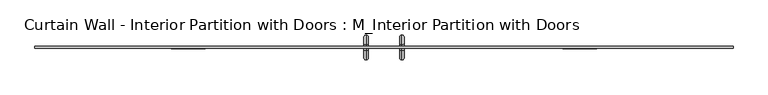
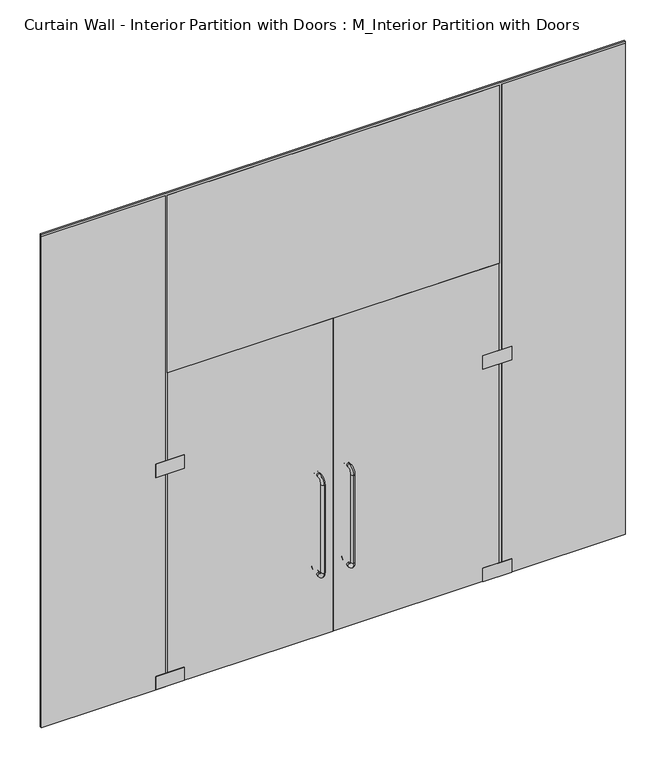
"""IFC4 building model written with IfcOpenShell, lengths in millimetres: plate geometry, Curtain Wall - Interior Partition with Doors : M_Interior Partition with Doors."""

import ifcopenshell
import ifcopenshell.guid

model = None  # the IFC model being written
_history = None  # IfcOwnerHistory: only IFC2X3 demands one
_inside = {}  # id of a spatial element -> (the spatial element, [elements in it])
_under = {}  # id of a project, library or spatial element -> (it, [spatial elements below it])
_declared = {}  # id of a project -> (the project, [libraries it declares])
_typed = {}  # id of a type object -> (the type object, [elements of that type])
_made_of = {}  # id of a material, layer set ... -> (it, [elements and type objects made of it])


def new_model(schema):
    """Start an empty IFC model of exactly this schema.

    Asked for "IFC4X3", IfcOpenShell would pick the latest addendum, in which some entities
    have other attributes; the version numbers below select the first issue.
    IFC2X3 requires an IfcOwnerHistory on every rooted entity: one is made here for all.
    """
    global model, _history
    if schema == "IFC4X3":
        model = ifcopenshell.file(schema_version=(4, 3, 0, 0))
    else:
        model = ifcopenshell.file(schema=schema)
    _inside.clear()
    _under.clear()
    _declared.clear()
    _typed.clear()
    _made_of.clear()
    _history = None
    if model.schema == "IFC2X3":
        org = make("IfcOrganization", Name="unknown")
        user = make(
            "IfcPersonAndOrganization",
            ThePerson=make("IfcPerson", FamilyName="unknown"),
            TheOrganization=org,
        )
        app = make(
            "IfcApplication",
            ApplicationDeveloper=org,
            Version="unknown",
            ApplicationFullName="unknown",
            ApplicationIdentifier="unknown",
        )
        _history = make(
            "IfcOwnerHistory",
            OwningUser=user,
            OwningApplication=app,
            ChangeAction="ADDED",
            CreationDate=0,
        )
    return model


def make(cls, **values):
    """One entity of the class cls with the attributes given. An attribute that is None is left unset."""
    return model.create_entity(
        cls, **{name: value for name, value in values.items() if value is not None}
    )


def rooted(cls, **values):
    """An entity with a GlobalId (a new one), such as an element, a storey or a relation."""
    return make(cls, GlobalId=ifcopenshell.guid.new(), OwnerHistory=_history, **values)


def si_unit(unit_type, name, prefix=None):
    """IfcSIUnit, for example si_unit("LENGTHUNIT", "METRE", prefix="MILLI")."""
    return make("IfcSIUnit", UnitType=unit_type, Prefix=prefix, Name=name)


def assignment(units):
    """IfcUnitAssignment: the units of a project."""
    return None if units is None else make("IfcUnitAssignment", Units=units)


def point(xyz):
    """IfcCartesianPoint."""
    return None if xyz is None else make("IfcCartesianPoint", Coordinates=xyz)


def direction(xyz):
    """IfcDirection."""
    return None if xyz is None else make("IfcDirection", DirectionRatios=xyz)


def frame(location, z_axis=None, x_axis=None):
    """IfcAxis2Placement3D, a coordinate frame: its origin and axes. An axis left out is left unset."""
    return make(
        "IfcAxis2Placement3D",
        Location=point(location),
        Axis=direction(z_axis),
        RefDirection=direction(x_axis),
    )


def origin():
    """The frame at (0, 0, 0) with its axes left unset."""
    return frame((0.0, 0.0, 0.0))


def origin_with_axes():
    """The frame at (0, 0, 0) with the z axis (0, 0, 1) and the x axis (1, 0, 0) written out."""
    return frame((0.0, 0.0, 0.0), z_axis=(0.0, 0.0, 1.0), x_axis=(1.0, 0.0, 0.0))


def place(relative_to, where):
    """IfcLocalPlacement: puts the frame where relative to a parent placement (None: the world)."""
    return make(
        "IfcLocalPlacement", PlacementRelTo=relative_to, RelativePlacement=where
    )


def context(
    kind, dimensions, precision=None, world=None, true_north=None, identifier=None
):
    """IfcGeometricRepresentationContext, for example the 3D "Model" context."""
    return make(
        "IfcGeometricRepresentationContext",
        ContextIdentifier=identifier,
        ContextType=kind,
        CoordinateSpaceDimension=dimensions,
        Precision=precision,
        WorldCoordinateSystem=world,
        TrueNorth=true_north,
    )


def project(units=None, contexts=None):
    """IfcProject with its units and contexts."""
    return rooted(
        "IfcProject",
        Name="project",
        RepresentationContexts=contexts,
        UnitsInContext=assignment(units),
    )


def spatial(cls, under=None, at=None, **own):
    """A site, building, storey or space (cls), placed at a placement, below another one or the project."""
    s = rooted(cls, ObjectPlacement=at, **own)
    if under is not None:
        _under.setdefault(under.id(), (under, []))[1].append(s)
    return s


def polyline(points):
    """IfcPolyline through the points."""
    return make("IfcPolyline", Points=[point(p) for p in points])


def circle_curve(where, radius):
    """IfcCircle in the frame where."""
    return make("IfcCircle", Position=where, Radius=radius)


def ellipse_curve(where, semi_axis1, semi_axis2):
    """IfcEllipse in the frame where."""
    return make(
        "IfcEllipse", Position=where, SemiAxis1=semi_axis1, SemiAxis2=semi_axis2
    )


def trimmed(basis, trim1, trim2, sense, master):
    """IfcTrimmedCurve: the piece of a basis curve between two trims."""
    return make(
        "IfcTrimmedCurve",
        BasisCurve=basis,
        Trim1=trim1,
        Trim2=trim2,
        SenseAgreement=sense,
        MasterRepresentation=master,
    )


def outline(outer, holes=None, kind="AREA"):
    """IfcArbitraryClosedProfileDef: a profile drawn as a closed curve; with holes, ...WithVoids."""
    if holes is None:
        return make("IfcArbitraryClosedProfileDef", ProfileType=kind, OuterCurve=outer)
    return make(
        "IfcArbitraryProfileDefWithVoids",
        ProfileType=kind,
        OuterCurve=outer,
        InnerCurves=holes,
    )


def extrude(swept, where, along, depth):
    """IfcExtrudedAreaSolid: the profile swept, set in the frame where, extruded along a direction by depth."""
    return make(
        "IfcExtrudedAreaSolid",
        SweptArea=swept,
        Position=where,
        ExtrudedDirection=direction(along),
        Depth=depth,
    )


def shape(context_of_items, identifier, shape_type, items):
    """IfcShapeRepresentation: the items that make up one representation, for example the "Body"."""
    return make(
        "IfcShapeRepresentation",
        ContextOfItems=context_of_items,
        RepresentationIdentifier=identifier,
        RepresentationType=shape_type,
        Items=items,
    )


def source(mapping_origin, context_of_items, identifier, shape_type, items):
    """IfcRepresentationMap: a shape defined once, which mapped items show again and again."""
    return make(
        "IfcRepresentationMap",
        MappingOrigin=mapping_origin,
        MappedRepresentation=shape(context_of_items, identifier, shape_type, items),
    )


def transform(
    local_origin,
    x_axis=None,
    y_axis=None,
    z_axis=None,
    scale=None,
    scale2=None,
    scale3=None,
    uniform=True,
):
    """IfcCartesianTransformationOperator3D, or its non-uniform kind. x_axis, y_axis, z_axis: its Axis1, 2, 3."""
    if uniform:
        return make(
            "IfcCartesianTransformationOperator3D",
            Axis1=direction(x_axis),
            Axis2=direction(y_axis),
            LocalOrigin=point(local_origin),
            Scale=scale,
            Axis3=direction(z_axis),
        )
    return make(
        "IfcCartesianTransformationOperator3DnonUniform",
        Axis1=direction(x_axis),
        Axis2=direction(y_axis),
        LocalOrigin=point(local_origin),
        Scale=scale,
        Axis3=direction(z_axis),
        Scale2=scale2,
        Scale3=scale3,
    )


def mapped(mapping_source, mapping_target):
    """IfcMappedItem: shows the shape of a source again, moved by a transform."""
    return make(
        "IfcMappedItem", MappingSource=mapping_source, MappingTarget=mapping_target
    )


def made_of(thing, what):
    """Note that an element or type object is made of a material, layer set ...; save() writes the relation."""
    if what is not None:
        _made_of.setdefault(what.id(), (what, []))[1].append(thing)
    return thing


def element(
    cls,
    number,
    at=None,
    inside=None,
    cuts=None,
    type_object=None,
    material=None,
    context=None,
    identifier="Body",
    shape_type=None,
    held_by="IfcProductDefinitionShape",
    body=None,
    shapes=None,
    **own,
):
    """One element of the class cls, such as IfcWall. Its Tag is "e" and its number.

    at: its placement. inside: the storey or other place that contains it. cuts: it is an
    opening in that element (IfcRelVoidsElement). A single representation is given by context,
    identifier, shape_type and body (its items); several are given by shapes. held_by: the class
    of the entity that holds the representations. save() writes the other relations.
    """
    e = rooted(cls, Tag="e%d" % number, ObjectPlacement=at, **own)
    if body is not None:
        shapes = [shape(context, identifier, shape_type, body)]
    if shapes is not None:
        e.Representation = make(held_by, Representations=shapes)
    if inside is not None:
        _inside.setdefault(inside.id(), (inside, []))[1].append(e)
    if cuts is not None:
        rooted(
            "IfcRelVoidsElement", RelatingBuildingElement=cuts, RelatedOpeningElement=e
        )
    if type_object is not None:
        _typed.setdefault(type_object.id(), (type_object, []))[1].append(e)
    return made_of(e, material)


def aggregate(whole, parts):
    """IfcRelAggregates: a whole, such as a stair, and the parts it consists of."""
    return rooted("IfcRelAggregates", RelatingObject=whole, RelatedObjects=parts)


def save(model, path):
    """Write the relations noted so far, then the file.

    IfcRelAggregates (storeys below a building ...), IfcRelContainedInSpatialStructure (elements
    in a storey), IfcRelDefinesByType, IfcRelAssociatesMaterial and IfcRelDeclares: one each for
    every whole, place, type object, material and project.
    """
    for whole, parts in _under.values():
        aggregate(whole, parts)
    for where, things in _inside.values():
        rooted(
            "IfcRelContainedInSpatialStructure",
            RelatedElements=things,
            RelatingStructure=where,
        )
    for kind, things in _typed.values():
        rooted("IfcRelDefinesByType", RelatedObjects=things, RelatingType=kind)
    for what, things in _made_of.values():
        rooted("IfcRelAssociatesMaterial", RelatedObjects=things, RelatingMaterial=what)
    for by, libraries in _declared.values():
        rooted("IfcRelDeclares", RelatingContext=by, RelatedDefinitions=libraries)
    model.write(path)


def plane_surface(at):
    """IfcPlane: the flat surface through the origin of the frame at, square to its z axis."""
    return make("IfcPlane", Position=at)


def cylinder_surface(at, radius):
    """IfcCylindricalSurface: all points at the distance radius from the z axis of the frame at."""
    return make("IfcCylindricalSurface", Position=at, Radius=radius)


def revolved_surface(curve, axis_point, axis_direction):
    """IfcSurfaceOfRevolution: the curve turned about the line through axis_point along axis_direction."""
    return make(
        "IfcSurfaceOfRevolution",
        SweptCurve=make("IfcArbitraryOpenProfileDef", ProfileType="CURVE", Curve=curve),
        AxisPosition=make("IfcAxis1Placement", Location=point(axis_point), Axis=direction(axis_direction)),
    )


def advanced_brep(points, edges, surfaces, faces):
    """IfcAdvancedBrep: a solid bounded by faces that lie on surfaces and meet in shared edges.

    An edge is (start, end): straight between two places in points (the first is 0);
    or (start, end, curve); or (start, end, curve, False) where it runs against its curve.
    A face is (place in surfaces, loops), or (place, loops, False) where it looks against
    its surface's normal. A loop lists edges by number (the first is 1), with a minus sign
    where the edge is run from its end to its start. The first loop is the outer one.
    """
    corners = [point(p) for p in points]
    vertices = [make("IfcVertexPoint", VertexGeometry=c) for c in corners]
    made = []
    for start, end, *more in edges:
        made.append(
            make(
                "IfcEdgeCurve",
                EdgeStart=vertices[start],
                EdgeEnd=vertices[end],
                EdgeGeometry=more[0] if more else make("IfcPolyline", Points=[corners[start], corners[end]]),
                SameSense=more[1] if len(more) > 1 else True,
            )
        )
    hull = []
    for where, loops, *sense in faces:
        bounds = []
        for j, loop in enumerate(loops):
            ring = [make("IfcOrientedEdge", EdgeElement=made[abs(k) - 1], Orientation=k > 0) for k in loop]
            bounds.append(
                make(
                    "IfcFaceOuterBound" if j == 0 else "IfcFaceBound",
                    Bound=make("IfcEdgeLoop", EdgeList=ring),
                    Orientation=True,
                )
            )
        hull.append(make("IfcAdvancedFace", Bounds=bounds, FaceSurface=surfaces[where], SameSense=sense[0] if sense else True))
    return make("IfcAdvancedBrep", Outer=make("IfcClosedShell", CfsFaces=hull))


def curtain_wall_interior_partition_with_doors_m_interior_a32743dc(model_context):
    return source(origin(), model_context, "Body", "SolidModel", [
        advanced_brep(
        [(135.9444999, 0.0, 579.4207833), (135.9444999, 0.0, 611.4207833), (135.9444999, 16.3352404, 579.4207833), (135.9444999, 16.3352404, 611.4207833), (135.9444999, 55.31571, 650.401253), (135.9444999, 87.31571, 650.401253), (135.9444999, 87.31571, 1492.0268215), (135.9444999, 55.31571, 1492.0268215), (135.9444999, 16.3352404, 1531.0072911), (135.9444999, 16.3352404, 1563.0072911), (135.9444999, 0.0, 1563.0072911), (135.9444999, 0.0, 1531.0072911)],
        [
            (0, 1, circle_curve(frame((135.9444999, 0.0, 595.4207833), z_axis=(0.0, -1.0, 0.0), x_axis=(0.0, 0.0, 1.0)), 16.0)),
            (1, 0, circle_curve(frame((135.9444999, 0.0, 595.4207833), z_axis=(0.0, -1.0, 0.0), x_axis=(0.0, 0.0, 1.0)), 16.0)),
            (0, 2),
            (2, 3, circle_curve(frame((135.9444999, 16.3352404, 595.4207833), z_axis=(0.0, -1.0, 0.0), x_axis=(0.0, 0.0, 1.0)), 16.0)),
            (3, 1),
            (3, 2, circle_curve(frame((135.9444999, 16.3352404, 595.4207833), z_axis=(0.0, -1.0, 0.0), x_axis=(0.0, 0.0, 1.0)), 16.0)),
            (4, 3, circle_curve(frame((135.9444999, 16.3352404, 650.401253), z_axis=(-1.0, 0.0, 0.0), x_axis=(0.0, 0.0, -1.0)), 38.9804696)),
            (2, 5, circle_curve(frame((135.9444999, 16.3352404, 650.401253), z_axis=(1.0, 0.0, 0.0), x_axis=(0.0, 0.0, -1.0)), 70.9804696)),
            (5, 4, circle_curve(frame((135.9444999, 71.31571, 650.401253), z_axis=(0.0, 0.0, -1.0), x_axis=(0.0, -1.0, 0.0)), 16.0)),
            (4, 5, circle_curve(frame((135.9444999, 71.31571, 650.401253), z_axis=(0.0, 0.0, -1.0), x_axis=(0.0, -1.0, 0.0)), 16.0)),
            (5, 6),
            (6, 7, circle_curve(frame((135.9444999, 71.31571, 1492.0268215), z_axis=(0.0, 0.0, -1.0), x_axis=(0.0, -1.0, 0.0)), 16.0)),
            (7, 4),
            (7, 6, circle_curve(frame((135.9444999, 71.31571, 1492.0268215), z_axis=(0.0, 0.0, -1.0), x_axis=(0.0, -1.0, 0.0)), 16.0)),
            (8, 7, circle_curve(frame((135.9444999, 16.3352404, 1492.0268215), z_axis=(-1.0, 0.0, 0.0), x_axis=(0.0, 1.0, 0.0)), 38.9804696)),
            (6, 9, circle_curve(frame((135.9444999, 16.3352404, 1492.0268215), z_axis=(1.0, 0.0, 0.0), x_axis=(0.0, 1.0, 0.0)), 70.9804696)),
            (9, 8, circle_curve(frame((135.9444999, 16.3352404, 1547.0072911), z_axis=(0.0, 1.0, 0.0), x_axis=(0.0, 0.0, -1.0)), 16.0)),
            (8, 9, circle_curve(frame((135.9444999, 16.3352404, 1547.0072911), z_axis=(0.0, 1.0, 0.0), x_axis=(0.0, 0.0, -1.0)), 16.0)),
            (10, 11, circle_curve(frame((135.9444999, 0.0, 1547.0072911), z_axis=(0.0, -1.0, 0.0), x_axis=(0.0, 0.0, -1.0)), 16.0)),
            (11, 10, circle_curve(frame((135.9444999, 0.0, 1547.0072911), z_axis=(0.0, -1.0, 0.0), x_axis=(0.0, 0.0, -1.0)), 16.0)),
            (9, 10),
            (11, 8),
        ],
        [
            plane_surface(frame((135.9444999, 0.0, 595.4207833), z_axis=(0.0, -1.0, 0.0), x_axis=(1.0, 0.0, 0.0))),
            cylinder_surface(frame((135.9444999, 0.0, 595.4207833), z_axis=(0.0, -1.0, 0.0), x_axis=(0.0, 0.0, 1.0)), 16.0),
            revolved_surface(trimmed(ellipse_curve(frame((135.9444999, 16.3352404, 595.4207833), z_axis=(0.0, -1.0, 0.0), x_axis=(0.0, 0.0, 1.0)), 16.0, 16.0), [point((135.9444999, 16.3352404, 579.4207833))], [point((135.9444999, 16.3352404, 611.4207833))], True, "CARTESIAN"), (135.9444999, 16.3352404, 650.401253), (1.0, 0.0, 0.0)),
            revolved_surface(trimmed(ellipse_curve(frame((135.9444999, 16.3352404, 595.4207833), z_axis=(0.0, -1.0, 0.0), x_axis=(0.0, 0.0, 1.0)), 16.0, 16.0), [point((135.9444999, 16.3352404, 611.4207833))], [point((135.9444999, 16.3352404, 579.4207833))], True, "CARTESIAN"), (135.9444999, 16.3352404, 650.401253), (1.0, 0.0, 0.0)),
            cylinder_surface(frame((135.9444999, 71.31571, 650.401253), z_axis=(0.0, 0.0, -1.0), x_axis=(0.0, -1.0, 0.0)), 16.0),
            revolved_surface(trimmed(ellipse_curve(frame((135.9444999, 71.31571, 1492.0268215), z_axis=(0.0, 0.0, -1.0), x_axis=(0.0, -1.0, 0.0)), 16.0, 16.0), [point((135.9444999, 87.31571, 1492.0268215))], [point((135.9444999, 55.31571, 1492.0268215))], True, "CARTESIAN"), (135.9444999, 16.3352404, 1492.0268215), (1.0, 0.0, 0.0)),
            revolved_surface(trimmed(ellipse_curve(frame((135.9444999, 71.31571, 1492.0268215), z_axis=(0.0, 0.0, -1.0), x_axis=(0.0, -1.0, 0.0)), 16.0, 16.0), [point((135.9444999, 55.31571, 1492.0268215))], [point((135.9444999, 87.31571, 1492.0268215))], True, "CARTESIAN"), (135.9444999, 16.3352404, 1492.0268215), (1.0, 0.0, 0.0)),
            plane_surface(frame((135.9444999, 0.0, 1547.0072911), z_axis=(0.0, -1.0, 0.0), x_axis=(1.0, 0.0, 0.0))),
            cylinder_surface(frame((135.9444999, 16.3352404, 1547.0072911), z_axis=(0.0, 1.0, 0.0), x_axis=(0.0, 0.0, -1.0)), 16.0),
        ],
        [
            (0, [[1, 2]]),
            (1, [[-1, 3, 4, 5]]),
            (1, [[-2, -5, 6, -3]]),
            (2, [[7, -4, 8, 9]]),
            (3, [[-8, -6, -7, 10]]),
            (4, [[-9, 11, 12, 13]]),
            (4, [[-10, -13, 14, -11]]),
            (5, [[15, -12, 16, 17]]),
            (6, [[-16, -14, -15, 18]]),
            (7, [[19, 20]]),
            (8, [[-17, 21, -20, 22]]),
            (8, [[-18, -22, -19, -21]]),
        ],
    ),
        advanced_brep(
        [(-135.9444999, 0.0, 579.4207833), (-135.9444999, 0.0, 611.4207833), (-135.9444999, 16.3352404, 611.4207833), (-135.9444999, 16.3352404, 579.4207833), (-135.9444999, 55.31571, 650.401253), (-135.9444999, 87.31571, 650.401253), (-135.9444999, 55.31571, 1492.0268215), (-135.9444999, 87.31571, 1492.0268215), (-135.9444999, 16.3352404, 1531.0072911), (-135.9444999, 16.3352404, 1563.0072911), (-135.9444999, 0.0, 1563.0072911), (-135.9444999, 0.0, 1531.0072911)],
        [
            (0, 1, circle_curve(frame((-135.9444999, 0.0, 595.4207833), z_axis=(0.0, -1.0, 0.0), x_axis=(0.0, 0.0, 1.0)), 16.0)),
            (1, 0, circle_curve(frame((-135.9444999, 0.0, 595.4207833), z_axis=(0.0, -1.0, 0.0), x_axis=(0.0, 0.0, 1.0)), 16.0)),
            (1, 2),
            (2, 3, circle_curve(frame((-135.9444999, 16.3352404, 595.4207833), z_axis=(0.0, -1.0, 0.0), x_axis=(0.0, 0.0, 1.0)), 16.0)),
            (3, 0),
            (3, 2, circle_curve(frame((-135.9444999, 16.3352404, 595.4207833), z_axis=(0.0, -1.0, 0.0), x_axis=(0.0, 0.0, 1.0)), 16.0)),
            (4, 5, circle_curve(frame((-135.9444999, 71.31571, 650.401253), z_axis=(0.0, 0.0, -1.0), x_axis=(0.0, -1.0, 0.0)), 16.0)),
            (5, 3, circle_curve(frame((-135.9444999, 16.3352404, 650.401253), z_axis=(-1.0, 0.0, 0.0), x_axis=(0.0, 0.0, -1.0)), 70.9804696)),
            (2, 4, circle_curve(frame((-135.9444999, 16.3352404, 650.401253), z_axis=(1.0, 0.0, 0.0), x_axis=(0.0, 0.0, -1.0)), 38.9804696)),
            (5, 4, circle_curve(frame((-135.9444999, 71.31571, 650.401253), z_axis=(0.0, 0.0, -1.0), x_axis=(0.0, -1.0, 0.0)), 16.0)),
            (4, 6),
            (6, 7, circle_curve(frame((-135.9444999, 71.31571, 1492.0268215), z_axis=(0.0, 0.0, -1.0), x_axis=(0.0, -1.0, 0.0)), 16.0)),
            (7, 5),
            (7, 6, circle_curve(frame((-135.9444999, 71.31571, 1492.0268215), z_axis=(0.0, 0.0, -1.0), x_axis=(0.0, -1.0, 0.0)), 16.0)),
            (8, 9, circle_curve(frame((-135.9444999, 16.3352404, 1547.0072911), z_axis=(0.0, 1.0, 0.0), x_axis=(0.0, 0.0, -1.0)), 16.0)),
            (9, 7, circle_curve(frame((-135.9444999, 16.3352404, 1492.0268215), z_axis=(-1.0, 0.0, 0.0), x_axis=(0.0, 1.0, 0.0)), 70.9804696)),
            (6, 8, circle_curve(frame((-135.9444999, 16.3352404, 1492.0268215), z_axis=(1.0, 0.0, 0.0), x_axis=(0.0, 1.0, 0.0)), 38.9804696)),
            (9, 8, circle_curve(frame((-135.9444999, 16.3352404, 1547.0072911), z_axis=(0.0, 1.0, 0.0), x_axis=(0.0, 0.0, -1.0)), 16.0)),
            (10, 11, circle_curve(frame((-135.9444999, 0.0, 1547.0072911), z_axis=(0.0, -1.0, 0.0), x_axis=(0.0, 0.0, -1.0)), 16.0)),
            (11, 10, circle_curve(frame((-135.9444999, 0.0, 1547.0072911), z_axis=(0.0, -1.0, 0.0), x_axis=(0.0, 0.0, -1.0)), 16.0)),
            (8, 11),
            (10, 9),
        ],
        [
            plane_surface(frame((-135.9444999, 0.0, 595.4207833), z_axis=(0.0, -1.0, 0.0), x_axis=(-1.0, 0.0, 0.0))),
            cylinder_surface(frame((-135.9444999, 0.0, 595.4207833), z_axis=(0.0, -1.0, 0.0), x_axis=(0.0, 0.0, 1.0)), 16.0),
            revolved_surface(trimmed(ellipse_curve(frame((-135.9444999, 16.3352404, 595.4207833), z_axis=(0.0, 1.0, 0.0), x_axis=(0.0, 0.0, 1.0)), 16.0, 16.0), [point((-135.9444999, 16.3352404, 579.4207833))], [point((-135.9444999, 16.3352404, 611.4207833))], True, "CARTESIAN"), (-135.9444999, 16.3352404, 650.401253), (-1.0, 0.0, 0.0)),
            revolved_surface(trimmed(ellipse_curve(frame((-135.9444999, 16.3352404, 595.4207833), z_axis=(0.0, 1.0, 0.0), x_axis=(0.0, 0.0, 1.0)), 16.0, 16.0), [point((-135.9444999, 16.3352404, 611.4207833))], [point((-135.9444999, 16.3352404, 579.4207833))], True, "CARTESIAN"), (-135.9444999, 16.3352404, 650.401253), (-1.0, 0.0, 0.0)),
            cylinder_surface(frame((-135.9444999, 71.31571, 650.401253), z_axis=(0.0, 0.0, -1.0), x_axis=(0.0, -1.0, 0.0)), 16.0),
            revolved_surface(trimmed(ellipse_curve(frame((-135.9444999, 71.31571, 1492.0268215), z_axis=(0.0, 0.0, 1.0), x_axis=(0.0, -1.0, 0.0)), 16.0, 16.0), [point((-135.9444999, 87.31571, 1492.0268215))], [point((-135.9444999, 55.31571, 1492.0268215))], True, "CARTESIAN"), (-135.9444999, 16.3352404, 1492.0268215), (-1.0, 0.0, 0.0)),
            revolved_surface(trimmed(ellipse_curve(frame((-135.9444999, 71.31571, 1492.0268215), z_axis=(0.0, 0.0, 1.0), x_axis=(0.0, -1.0, 0.0)), 16.0, 16.0), [point((-135.9444999, 55.31571, 1492.0268215))], [point((-135.9444999, 87.31571, 1492.0268215))], True, "CARTESIAN"), (-135.9444999, 16.3352404, 1492.0268215), (-1.0, 0.0, 0.0)),
            plane_surface(frame((-135.9444999, 0.0, 1547.0072911), z_axis=(0.0, -1.0, 0.0), x_axis=(-1.0, 0.0, 0.0))),
            cylinder_surface(frame((-135.9444999, 16.3352404, 1547.0072911), z_axis=(0.0, 1.0, 0.0), x_axis=(0.0, 0.0, -1.0)), 16.0),
        ],
        [
            (0, [[1, 2]]),
            (1, [[3, 4, 5, -2]]),
            (1, [[-5, 6, -3, -1]]),
            (2, [[7, 8, -4, 9]]),
            (3, [[10, -9, -6, -8]]),
            (4, [[11, 12, 13, -7]]),
            (4, [[-13, 14, -11, -10]]),
            (5, [[15, 16, -12, 17]]),
            (6, [[18, -17, -14, -16]]),
            (7, [[19, 20]]),
            (8, [[21, -19, 22, -15]]),
            (8, [[-22, -20, -21, -18]]),
        ],
    ),
        advanced_brep(
        [(135.9444999, -15.0, 579.4207833), (135.9444999, -15.0, 611.4207833), (135.9444999, -31.3352404, 611.4207833), (135.9444999, -31.3352404, 579.4207833), (135.9444999, -70.31571, 650.401253), (135.9444999, -102.31571, 650.401253), (135.9444999, -70.31571, 1492.0268215), (135.9444999, -102.31571, 1492.0268215), (135.9444999, -31.3352404, 1531.0072911), (135.9444999, -31.3352404, 1563.0072911), (135.9444999, -15.0, 1563.0072911), (135.9444999, -15.0, 1531.0072911)],
        [
            (0, 1, circle_curve(frame((135.9444999, -15.0, 595.4207833), z_axis=(0.0, 1.0, 0.0), x_axis=(0.0, 0.0, 1.0)), 16.0)),
            (1, 0, circle_curve(frame((135.9444999, -15.0, 595.4207833), z_axis=(0.0, 1.0, 0.0), x_axis=(0.0, 0.0, 1.0)), 16.0)),
            (1, 2),
            (2, 3, circle_curve(frame((135.9444999, -31.3352404, 595.4207833), z_axis=(0.0, 1.0, 0.0), x_axis=(0.0, 0.0, 1.0)), 16.0)),
            (3, 0),
            (3, 2, circle_curve(frame((135.9444999, -31.3352404, 595.4207833), z_axis=(0.0, 1.0, 0.0), x_axis=(0.0, 0.0, 1.0)), 16.0)),
            (4, 5, circle_curve(frame((135.9444999, -86.31571, 650.401253), z_axis=(0.0, 0.0, -1.0), x_axis=(0.0, 1.0, 0.0)), 16.0)),
            (5, 3, circle_curve(frame((135.9444999, -31.3352404, 650.401253), z_axis=(1.0, 0.0, 0.0), x_axis=(0.0, 0.0, -1.0)), 70.9804696)),
            (2, 4, circle_curve(frame((135.9444999, -31.3352404, 650.401253), z_axis=(-1.0, 0.0, 0.0), x_axis=(0.0, 0.0, -1.0)), 38.9804696)),
            (5, 4, circle_curve(frame((135.9444999, -86.31571, 650.401253), z_axis=(0.0, 0.0, -1.0), x_axis=(0.0, 1.0, 0.0)), 16.0)),
            (4, 6),
            (6, 7, circle_curve(frame((135.9444999, -86.31571, 1492.0268215), z_axis=(0.0, 0.0, -1.0), x_axis=(0.0, 1.0, 0.0)), 16.0)),
            (7, 5),
            (7, 6, circle_curve(frame((135.9444999, -86.31571, 1492.0268215), z_axis=(0.0, 0.0, -1.0), x_axis=(0.0, 1.0, 0.0)), 16.0)),
            (8, 9, circle_curve(frame((135.9444999, -31.3352404, 1547.0072911), z_axis=(0.0, -1.0, 0.0), x_axis=(0.0, 0.0, -1.0)), 16.0)),
            (9, 7, circle_curve(frame((135.9444999, -31.3352404, 1492.0268215), z_axis=(1.0, 0.0, 0.0), x_axis=(0.0, -1.0, 0.0)), 70.9804696)),
            (6, 8, circle_curve(frame((135.9444999, -31.3352404, 1492.0268215), z_axis=(-1.0, 0.0, 0.0), x_axis=(0.0, -1.0, 0.0)), 38.9804696)),
            (9, 8, circle_curve(frame((135.9444999, -31.3352404, 1547.0072911), z_axis=(0.0, -1.0, 0.0), x_axis=(0.0, 0.0, -1.0)), 16.0)),
            (10, 11, circle_curve(frame((135.9444999, -15.0, 1547.0072911), z_axis=(0.0, 1.0, 0.0), x_axis=(0.0, 0.0, -1.0)), 16.0)),
            (11, 10, circle_curve(frame((135.9444999, -15.0, 1547.0072911), z_axis=(0.0, 1.0, 0.0), x_axis=(0.0, 0.0, -1.0)), 16.0)),
            (8, 11),
            (10, 9),
        ],
        [
            plane_surface(frame((135.9444999, -15.0, 595.4207833), z_axis=(0.0, 1.0, 0.0), x_axis=(1.0, 0.0, 0.0))),
            cylinder_surface(frame((135.9444999, -15.0, 595.4207833), z_axis=(0.0, 1.0, 0.0), x_axis=(0.0, 0.0, 1.0)), 16.0),
            revolved_surface(trimmed(ellipse_curve(frame((135.9444999, -31.3352404, 595.4207833), z_axis=(0.0, -1.0, 0.0), x_axis=(0.0, 0.0, 1.0)), 16.0, 16.0), [point((135.9444999, -31.3352404, 579.4207833))], [point((135.9444999, -31.3352404, 611.4207833))], True, "CARTESIAN"), (135.9444999, -31.3352404, 650.401253), (1.0, 0.0, 0.0)),
            revolved_surface(trimmed(ellipse_curve(frame((135.9444999, -31.3352404, 595.4207833), z_axis=(0.0, -1.0, 0.0), x_axis=(0.0, 0.0, 1.0)), 16.0, 16.0), [point((135.9444999, -31.3352404, 611.4207833))], [point((135.9444999, -31.3352404, 579.4207833))], True, "CARTESIAN"), (135.9444999, -31.3352404, 650.401253), (1.0, 0.0, 0.0)),
            cylinder_surface(frame((135.9444999, -86.31571, 650.401253), z_axis=(0.0, 0.0, -1.0), x_axis=(0.0, 1.0, 0.0)), 16.0),
            revolved_surface(trimmed(ellipse_curve(frame((135.9444999, -86.31571, 1492.0268215), z_axis=(0.0, 0.0, 1.0), x_axis=(0.0, 1.0, 0.0)), 16.0, 16.0), [point((135.9444999, -102.31571, 1492.0268215))], [point((135.9444999, -70.31571, 1492.0268215))], True, "CARTESIAN"), (135.9444999, -31.3352404, 1492.0268215), (1.0, 0.0, 0.0)),
            revolved_surface(trimmed(ellipse_curve(frame((135.9444999, -86.31571, 1492.0268215), z_axis=(0.0, 0.0, 1.0), x_axis=(0.0, 1.0, 0.0)), 16.0, 16.0), [point((135.9444999, -70.31571, 1492.0268215))], [point((135.9444999, -102.31571, 1492.0268215))], True, "CARTESIAN"), (135.9444999, -31.3352404, 1492.0268215), (1.0, 0.0, 0.0)),
            plane_surface(frame((135.9444999, -15.0, 1547.0072911), z_axis=(0.0, 1.0, 0.0), x_axis=(1.0, 0.0, 0.0))),
            cylinder_surface(frame((135.9444999, -31.3352404, 1547.0072911), z_axis=(0.0, -1.0, 0.0), x_axis=(0.0, 0.0, -1.0)), 16.0),
        ],
        [
            (0, [[1, 2]]),
            (1, [[3, 4, 5, -2]]),
            (1, [[-5, 6, -3, -1]]),
            (2, [[7, 8, -4, 9]]),
            (3, [[10, -9, -6, -8]]),
            (4, [[11, 12, 13, -7]]),
            (4, [[-13, 14, -11, -10]]),
            (5, [[15, 16, -12, 17]]),
            (6, [[18, -17, -14, -16]]),
            (7, [[19, 20]]),
            (8, [[21, -19, 22, -15]]),
            (8, [[-22, -20, -21, -18]]),
        ],
    ),
        advanced_brep(
        [(-135.9444999, -15.0, 579.4207833), (-135.9444999, -15.0, 611.4207833), (-135.9444999, -31.3352404, 579.4207833), (-135.9444999, -31.3352404, 611.4207833), (-135.9444999, -70.31571, 650.401253), (-135.9444999, -102.31571, 650.401253), (-135.9444999, -102.31571, 1492.0268215), (-135.9444999, -70.31571, 1492.0268215), (-135.9444999, -31.3352404, 1531.0072911), (-135.9444999, -31.3352404, 1563.0072911), (-135.9444999, -15.0, 1563.0072911), (-135.9444999, -15.0, 1531.0072911)],
        [
            (0, 1, circle_curve(frame((-135.9444999, -15.0, 595.4207833), z_axis=(0.0, 1.0, 0.0), x_axis=(0.0, 0.0, 1.0)), 16.0)),
            (1, 0, circle_curve(frame((-135.9444999, -15.0, 595.4207833), z_axis=(0.0, 1.0, 0.0), x_axis=(0.0, 0.0, 1.0)), 16.0)),
            (0, 2),
            (2, 3, circle_curve(frame((-135.9444999, -31.3352404, 595.4207833), z_axis=(0.0, 1.0, 0.0), x_axis=(0.0, 0.0, 1.0)), 16.0)),
            (3, 1),
            (3, 2, circle_curve(frame((-135.9444999, -31.3352404, 595.4207833), z_axis=(0.0, 1.0, 0.0), x_axis=(0.0, 0.0, 1.0)), 16.0)),
            (4, 3, circle_curve(frame((-135.9444999, -31.3352404, 650.401253), z_axis=(1.0, 0.0, 0.0), x_axis=(0.0, 0.0, -1.0)), 38.9804696)),
            (2, 5, circle_curve(frame((-135.9444999, -31.3352404, 650.401253), z_axis=(-1.0, 0.0, 0.0), x_axis=(0.0, 0.0, -1.0)), 70.9804696)),
            (5, 4, circle_curve(frame((-135.9444999, -86.31571, 650.401253), z_axis=(0.0, 0.0, -1.0), x_axis=(0.0, 1.0, 0.0)), 16.0)),
            (4, 5, circle_curve(frame((-135.9444999, -86.31571, 650.401253), z_axis=(0.0, 0.0, -1.0), x_axis=(0.0, 1.0, 0.0)), 16.0)),
            (5, 6),
            (6, 7, circle_curve(frame((-135.9444999, -86.31571, 1492.0268215), z_axis=(0.0, 0.0, -1.0), x_axis=(0.0, 1.0, 0.0)), 16.0)),
            (7, 4),
            (7, 6, circle_curve(frame((-135.9444999, -86.31571, 1492.0268215), z_axis=(0.0, 0.0, -1.0), x_axis=(0.0, 1.0, 0.0)), 16.0)),
            (8, 7, circle_curve(frame((-135.9444999, -31.3352404, 1492.0268215), z_axis=(1.0, 0.0, 0.0), x_axis=(0.0, -1.0, 0.0)), 38.9804696)),
            (6, 9, circle_curve(frame((-135.9444999, -31.3352404, 1492.0268215), z_axis=(-1.0, 0.0, 0.0), x_axis=(0.0, -1.0, 0.0)), 70.9804696)),
            (9, 8, circle_curve(frame((-135.9444999, -31.3352404, 1547.0072911), z_axis=(0.0, -1.0, 0.0), x_axis=(0.0, 0.0, -1.0)), 16.0)),
            (8, 9, circle_curve(frame((-135.9444999, -31.3352404, 1547.0072911), z_axis=(0.0, -1.0, 0.0), x_axis=(0.0, 0.0, -1.0)), 16.0)),
            (10, 11, circle_curve(frame((-135.9444999, -15.0, 1547.0072911), z_axis=(0.0, 1.0, 0.0), x_axis=(0.0, 0.0, -1.0)), 16.0)),
            (11, 10, circle_curve(frame((-135.9444999, -15.0, 1547.0072911), z_axis=(0.0, 1.0, 0.0), x_axis=(0.0, 0.0, -1.0)), 16.0)),
            (9, 10),
            (11, 8),
        ],
        [
            plane_surface(frame((-135.9444999, -15.0, 595.4207833), z_axis=(0.0, 1.0, 0.0), x_axis=(-1.0, 0.0, 0.0))),
            cylinder_surface(frame((-135.9444999, -15.0, 595.4207833), z_axis=(0.0, 1.0, 0.0), x_axis=(0.0, 0.0, 1.0)), 16.0),
            revolved_surface(trimmed(ellipse_curve(frame((-135.9444999, -31.3352404, 595.4207833), z_axis=(0.0, 1.0, 0.0), x_axis=(0.0, 0.0, 1.0)), 16.0, 16.0), [point((-135.9444999, -31.3352404, 579.4207833))], [point((-135.9444999, -31.3352404, 611.4207833))], True, "CARTESIAN"), (-135.9444999, -31.3352404, 650.401253), (-1.0, 0.0, 0.0)),
            revolved_surface(trimmed(ellipse_curve(frame((-135.9444999, -31.3352404, 595.4207833), z_axis=(0.0, 1.0, 0.0), x_axis=(0.0, 0.0, 1.0)), 16.0, 16.0), [point((-135.9444999, -31.3352404, 611.4207833))], [point((-135.9444999, -31.3352404, 579.4207833))], True, "CARTESIAN"), (-135.9444999, -31.3352404, 650.401253), (-1.0, 0.0, 0.0)),
            cylinder_surface(frame((-135.9444999, -86.31571, 650.401253), z_axis=(0.0, 0.0, -1.0), x_axis=(0.0, 1.0, 0.0)), 16.0),
            revolved_surface(trimmed(ellipse_curve(frame((-135.9444999, -86.31571, 1492.0268215), z_axis=(0.0, 0.0, -1.0), x_axis=(0.0, 1.0, 0.0)), 16.0, 16.0), [point((-135.9444999, -102.31571, 1492.0268215))], [point((-135.9444999, -70.31571, 1492.0268215))], True, "CARTESIAN"), (-135.9444999, -31.3352404, 1492.0268215), (-1.0, 0.0, 0.0)),
            revolved_surface(trimmed(ellipse_curve(frame((-135.9444999, -86.31571, 1492.0268215), z_axis=(0.0, 0.0, -1.0), x_axis=(0.0, 1.0, 0.0)), 16.0, 16.0), [point((-135.9444999, -70.31571, 1492.0268215))], [point((-135.9444999, -102.31571, 1492.0268215))], True, "CARTESIAN"), (-135.9444999, -31.3352404, 1492.0268215), (-1.0, 0.0, 0.0)),
            plane_surface(frame((-135.9444999, -15.0, 1547.0072911), z_axis=(0.0, 1.0, 0.0), x_axis=(-1.0, 0.0, 0.0))),
            cylinder_surface(frame((-135.9444999, -31.3352404, 1547.0072911), z_axis=(0.0, -1.0, 0.0), x_axis=(0.0, 0.0, -1.0)), 16.0),
        ],
        [
            (0, [[1, 2]]),
            (1, [[-1, 3, 4, 5]]),
            (1, [[-2, -5, 6, -3]]),
            (2, [[7, -4, 8, 9]]),
            (3, [[-8, -6, -7, 10]]),
            (4, [[-9, 11, 12, 13]]),
            (4, [[-10, -13, 14, -11]]),
            (5, [[15, -12, 16, 17]]),
            (6, [[-16, -14, -15, 18]]),
            (7, [[19, 20]]),
            (8, [[-17, 21, -20, 22]]),
            (8, [[-18, -22, -19, -21]]),
        ],
    ),
        extrude(outline(polyline([(-1354.8820118, -17.5), (-1614.7953625, -17.5), (-1614.7953625, 2.5), (-1354.8820118, 2.5), (-1354.8820118, -17.5)])), frame((0.0, 0.0, 2036.1229901), z_axis=(0.0, 0.0, 1.0), x_axis=(1.0, 0.0, 0.0)), (0.0, 0.0, 1.0), 127.7540198),
        extrude(outline(polyline([(-1354.8820118, -17.5), (-1614.7953625, -17.5), (-1614.7953625, 2.5), (-1354.8820118, 2.5), (-1354.8820118, -17.5)])), origin_with_axes(), (0.0, 0.0, 1.0), 127.7540198),
        extrude(outline(polyline([(1614.7953625, -17.5), (1354.8820118, -17.5), (1354.8820118, 2.5), (1614.7953625, 2.5), (1614.7953625, -17.5)])), frame((0.0, 0.0, 2036.1229901), z_axis=(0.0, 0.0, 1.0), x_axis=(1.0, 0.0, 0.0)), (0.0, 0.0, 1.0), 127.7540198),
        extrude(outline(polyline([(1614.7953625, -17.5), (1354.8820118, -17.5), (1354.8820118, 2.5), (1614.7953625, 2.5), (1614.7953625, -17.5)])), origin_with_axes(), (0.0, 0.0, 1.0), 127.7540198),
        extrude(outline(polyline([(1505.0, -15.0), (-1505.0, -15.0), (-1505.0, 0.0), (1505.0, 0.0), (1505.0, -15.0)])), frame((0.0, 0.0, 3000.0), z_axis=(0.0, 0.0, 1.0), x_axis=(1.0, 0.0, 0.0)), (0.0, 0.0, 1.0), 1705.0),
        extrude(outline(polyline([(-1525.0, -15.0), (-2648.3333333, -15.0), (-2648.3333333, 0.0), (-1525.0, 0.0), (-1525.0, -15.0)])), origin_with_axes(), (0.0, 0.0, 1.0), 4705.0),
        extrude(outline(polyline([(2648.3333333, -15.0), (1525.0, -15.0), (1525.0, 0.0), (2648.3333333, 0.0), (2648.3333333, -15.0)])), origin_with_axes(), (0.0, 0.0, 1.0), 4705.0),
        extrude(outline(polyline([(4725.0, 2648.3333333), (4725.0, -2648.3333333), (4705.0, -2648.3333333), (4705.0, -1525.0), (0.0, -1525.0), (0.0, -1505.0), (4705.0, -1505.0), (4705.0, 1505.0), (0.0, 1505.0), (0.0, 1525.0), (4705.0, 1525.0), (4705.0, 2648.3333333), (4725.0, 2648.3333333)])), frame((0.0, -15.0, 0.0), z_axis=(0.0, 1.0, 0.0), x_axis=(0.0, 0.0, 1.0)), (0.0, 0.0, 1.0), 15.0),
        extrude(outline(polyline([(-5.0, -15.0), (-1505.0, -15.0), (-1505.0, 0.0), (-5.0, 0.0), (-5.0, -15.0)])), origin_with_axes(), (0.0, 0.0, 1.0), 3000.0),
        extrude(outline(polyline([(1505.0, -15.0), (5.0, -15.0), (5.0, 0.0), (1505.0, 0.0), (1505.0, -15.0)])), origin_with_axes(), (0.0, 0.0, 1.0), 3000.0),
    ])


if __name__ == "__main__":
    model = new_model("IFC4")
    model_context = context("Model", 3, world=origin())
    ifc_project = project(units=[si_unit("LENGTHUNIT", "METRE", prefix="MILLI")], contexts=[model_context])
    site = spatial("IfcSite", under=ifc_project)
    building = spatial("IfcBuilding", under=site)
    placement = place(None, origin())
    curtain_wall_interior_partition_with_doors_m_interior_shape = curtain_wall_interior_partition_with_doors_m_interior_a32743dc(model_context)
    element("IfcPlate", 1, ObjectType="Curtain Wall - Interior Partition with Doors : M_Interior Partition with Doors", at=placement, inside=building, context=model_context, shape_type="MappedRepresentation", body=[
        mapped(curtain_wall_interior_partition_with_doors_m_interior_shape, transform((0.0, 0.0, 0.0), x_axis=(1.0, 0.0, 0.0), y_axis=(0.0, 1.0, 0.0), z_axis=(0.0, 0.0, 1.0))),
    ])
    save(model, "model.ifc")
